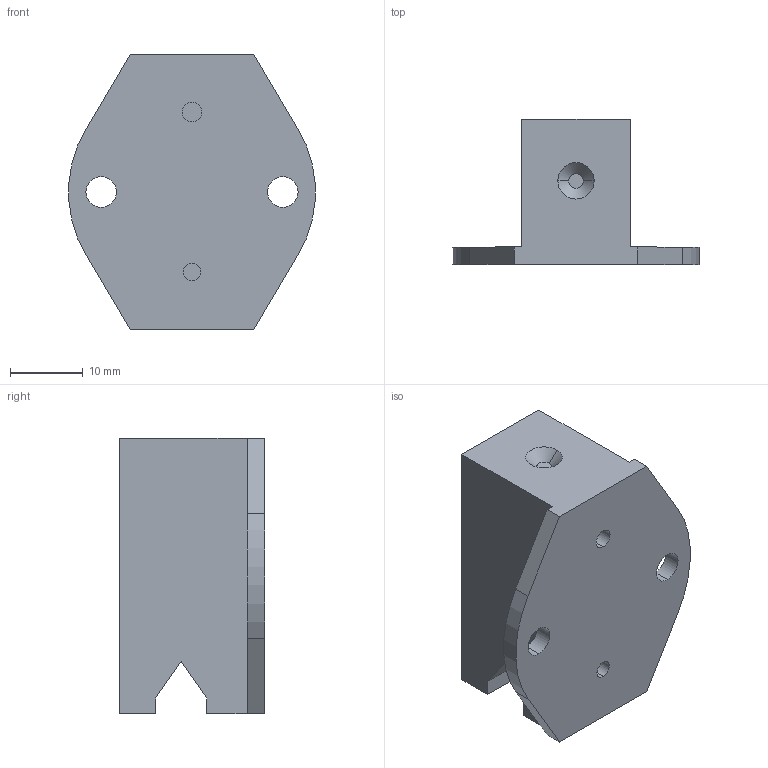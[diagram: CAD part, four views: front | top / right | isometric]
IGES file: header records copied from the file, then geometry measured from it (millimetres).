
Start section: 3D InterOp IGES (v. 2019 1.0.2), Spatial Corp. Copyright (c) 1999-2017.
Global section: file name: SS LB 44F.igs; native system: Spatial Corp.; preprocessor: 3D InterOp GENERIC/IGES 3.0; author: Noname; organization: Noname; date: 20220628.115131; units: millimetre
Bounding box: 33.9 x 20 x 38 mm (x, y, z)
Surface area: 4412.2 mm2 (no closed solid volume)
Topology: 0 solids, 0 shells, 32 faces, 162 edges, 162 vertices
Faces by surface type: extrusion 20, revolution 12
